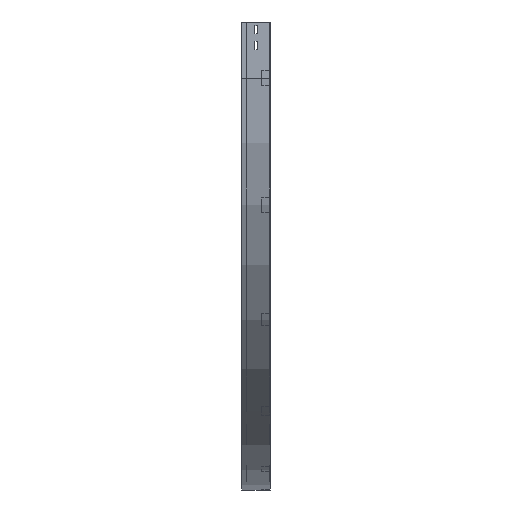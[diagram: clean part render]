
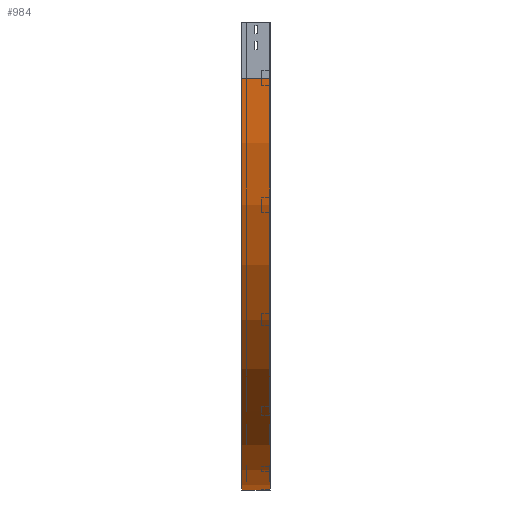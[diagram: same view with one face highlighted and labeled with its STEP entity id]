
A CAD part, left-side view. The second image highlights one B-rep face of the part: STEP entity #984.
In plain terms, the highlighted cylindrical face has radius 1100 mm (diameter 2200 mm), a partial arc.
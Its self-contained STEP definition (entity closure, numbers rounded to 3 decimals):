
#277 = CARTESIAN_POINT ( 'NONE',  ( 0., 75., -150. ) ) ;
#504 = EDGE_CURVE ( 'NONE', #3105, #2626, #2661, .T. ) ;
#652 = CARTESIAN_POINT ( 'NONE',  ( 1100., 75., -1250. ) ) ;
#771 = EDGE_CURVE ( 'NONE', #3299, #2626, #1562, .T. ) ;
#812 = EDGE_CURVE ( 'NONE', #2838, #3299, #2967, .T. ) ;
#860 = CARTESIAN_POINT ( 'NONE',  ( 1100., 0., -1250. ) ) ;
#883 = VECTOR ( 'NONE', #1475, 1000. ) ;
#957 = DIRECTION ( 'NONE',  ( 0., -1., 0. ) ) ;
#984 = ADVANCED_FACE ( 'NONE', ( #2202 ), #1572, .T. ) ;
#1018 = DIRECTION ( 'NONE',  ( 0., -1., 0. ) ) ;
#1279 = ORIENTED_EDGE ( 'NONE', *, *, #2568, .T. ) ;
#1308 = CARTESIAN_POINT ( 'NONE',  ( 1100., 0., -150. ) ) ;
#1475 = DIRECTION ( 'NONE',  ( 0., -1., 0. ) ) ;
#1562 = CIRCLE ( 'NONE', #2571, 1100. ) ;
#1572 = CYLINDRICAL_SURFACE ( 'NONE', #3335, 1100. ) ;
#1648 = CARTESIAN_POINT ( 'NONE',  ( 1100., 0., -1250. ) ) ;
#1693 = VECTOR ( 'NONE', #3558, 1000. ) ;
#1804 = DIRECTION ( 'NONE',  ( -1., 0., 0. ) ) ;
#1918 = DIRECTION ( 'NONE',  ( 0., -1., 0. ) ) ;
#1998 = CIRCLE ( 'NONE', #2374, 1100. ) ;
#2080 = ORIENTED_EDGE ( 'NONE', *, *, #812, .F. ) ;
#2098 = EDGE_LOOP ( 'NONE', ( #2906, #2080, #1279, #2195 ) ) ;
#2195 = ORIENTED_EDGE ( 'NONE', *, *, #504, .T. ) ;
#2202 = FACE_OUTER_BOUND ( 'NONE', #2098, .T. ) ;
#2374 = AXIS2_PLACEMENT_3D ( 'NONE', #2803, #1918, #1804 ) ;
#2377 = CARTESIAN_POINT ( 'NONE',  ( 0., 0., -150. ) ) ;
#2568 = EDGE_CURVE ( 'NONE', #2838, #3105, #1998, .T. ) ;
#2571 = AXIS2_PLACEMENT_3D ( 'NONE', #1308, #1018, #2854 ) ;
#2626 = VERTEX_POINT ( 'NONE', #1648 ) ;
#2661 = LINE ( 'NONE', #860, #1693 ) ;
#2803 = CARTESIAN_POINT ( 'NONE',  ( 1100., 75., -150. ) ) ;
#2829 = CARTESIAN_POINT ( 'NONE',  ( 1100., 0., -150. ) ) ;
#2838 = VERTEX_POINT ( 'NONE', #277 ) ;
#2854 = DIRECTION ( 'NONE',  ( -1., 0., 0. ) ) ;
#2906 = ORIENTED_EDGE ( 'NONE', *, *, #771, .F. ) ;
#2967 = LINE ( 'NONE', #2377, #883 ) ;
#3085 = DIRECTION ( 'NONE',  ( 0., 0., -1. ) ) ;
#3105 = VERTEX_POINT ( 'NONE', #652 ) ;
#3299 = VERTEX_POINT ( 'NONE', #3591 ) ;
#3335 = AXIS2_PLACEMENT_3D ( 'NONE', #2829, #957, #3085 ) ;
#3558 = DIRECTION ( 'NONE',  ( 0., -1., 0. ) ) ;
#3591 = CARTESIAN_POINT ( 'NONE',  ( 0., 0., -150. ) ) ;
